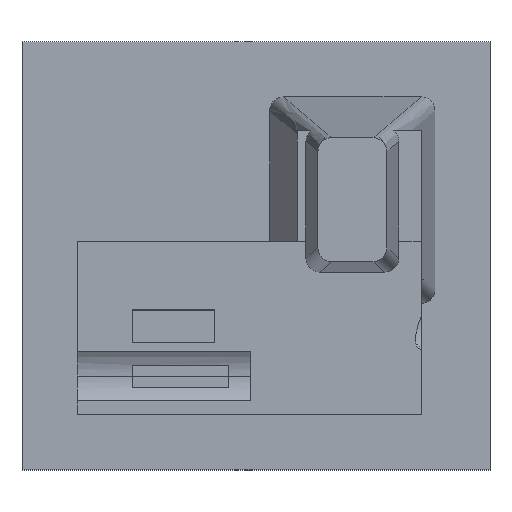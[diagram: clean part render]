
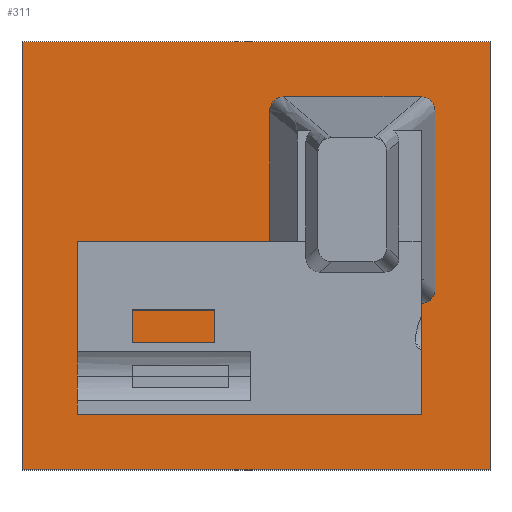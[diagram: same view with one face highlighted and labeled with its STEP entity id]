
A CAD part, top view. The second image highlights one B-rep face of the part: STEP entity #311.
In plain terms, the highlighted planar face has unit normal (0, 0, 1).
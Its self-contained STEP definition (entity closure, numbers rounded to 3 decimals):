
#22 = VERTEX_POINT('',#23);
#23 = CARTESIAN_POINT('',(0.,15.55,2.));
#32 = PLANE('',#33);
#33 = AXIS2_PLACEMENT_3D('',#34,#35,#36);
#34 = CARTESIAN_POINT('',(0.,15.55,2.));
#35 = DIRECTION('',(1.,0.,0.));
#36 = DIRECTION('',(0.,0.,-1.));
#44 = PLANE('',#45);
#45 = AXIS2_PLACEMENT_3D('',#46,#47,#48);
#46 = CARTESIAN_POINT('',(0.,15.55,2.));
#47 = DIRECTION('',(0.,-1.,0.));
#48 = DIRECTION('',(0.,0.,-1.));
#56 = EDGE_CURVE('',#22,#57,#59,.T.);
#57 = VERTEX_POINT('',#58);
#58 = CARTESIAN_POINT('',(0.,0.,2.));
#59 = SURFACE_CURVE('',#60,(#64,#71),.PCURVE_S1.);
#60 = LINE('',#61,#62);
#61 = CARTESIAN_POINT('',(0.,15.55,2.));
#62 = VECTOR('',#63,1.);
#63 = DIRECTION('',(0.,-1.,0.));
#64 = PCURVE('',#32,#65);
#65 = DEFINITIONAL_REPRESENTATION('',(#66),#70);
#66 = LINE('',#67,#68);
#67 = CARTESIAN_POINT('',(0.,0.));
#68 = VECTOR('',#69,1.);
#69 = DIRECTION('',(0.,-1.));
#70 = ( GEOMETRIC_REPRESENTATION_CONTEXT(2) 
PARAMETRIC_REPRESENTATION_CONTEXT() REPRESENTATION_CONTEXT('2D SPACE',''
  ) );
#71 = PCURVE('',#72,#77);
#72 = PLANE('',#73);
#73 = AXIS2_PLACEMENT_3D('',#74,#75,#76);
#74 = CARTESIAN_POINT('',(0.,15.55,2.));
#75 = DIRECTION('',(0.,0.,-1.));
#76 = DIRECTION('',(1.,0.,0.));
#77 = DEFINITIONAL_REPRESENTATION('',(#78),#82);
#78 = LINE('',#79,#80);
#79 = CARTESIAN_POINT('',(0.,0.));
#80 = VECTOR('',#81,1.);
#81 = DIRECTION('',(0.,1.));
#82 = ( GEOMETRIC_REPRESENTATION_CONTEXT(2) 
PARAMETRIC_REPRESENTATION_CONTEXT() REPRESENTATION_CONTEXT('2D SPACE',''
  ) );
#100 = PLANE('',#101);
#101 = AXIS2_PLACEMENT_3D('',#102,#103,#104);
#102 = CARTESIAN_POINT('',(0.,0.,2.));
#103 = DIRECTION('',(0.,-1.,0.));
#104 = DIRECTION('',(0.,0.,-1.));
#141 = EDGE_CURVE('',#22,#142,#144,.T.);
#142 = VERTEX_POINT('',#143);
#143 = CARTESIAN_POINT('',(17.,15.55,2.));
#144 = SURFACE_CURVE('',#145,(#149,#156),.PCURVE_S1.);
#145 = LINE('',#146,#147);
#146 = CARTESIAN_POINT('',(0.,15.55,2.));
#147 = VECTOR('',#148,1.);
#148 = DIRECTION('',(1.,0.,0.));
#149 = PCURVE('',#44,#150);
#150 = DEFINITIONAL_REPRESENTATION('',(#151),#155);
#151 = LINE('',#152,#153);
#152 = CARTESIAN_POINT('',(0.,0.));
#153 = VECTOR('',#154,1.);
#154 = DIRECTION('',(0.,1.));
#155 = ( GEOMETRIC_REPRESENTATION_CONTEXT(2) 
PARAMETRIC_REPRESENTATION_CONTEXT() REPRESENTATION_CONTEXT('2D SPACE',''
  ) );
#156 = PCURVE('',#72,#157);
#157 = DEFINITIONAL_REPRESENTATION('',(#158),#162);
#158 = LINE('',#159,#160);
#159 = CARTESIAN_POINT('',(0.,0.));
#160 = VECTOR('',#161,1.);
#161 = DIRECTION('',(1.,0.));
#162 = ( GEOMETRIC_REPRESENTATION_CONTEXT(2) 
PARAMETRIC_REPRESENTATION_CONTEXT() REPRESENTATION_CONTEXT('2D SPACE',''
  ) );
#202 = PLANE('',#203);
#203 = AXIS2_PLACEMENT_3D('',#204,#205,#206);
#204 = CARTESIAN_POINT('',(17.,15.55,2.));
#205 = DIRECTION('',(1.,0.,0.));
#206 = DIRECTION('',(0.,0.,-1.));
#266 = EDGE_CURVE('',#57,#267,#269,.T.);
#267 = VERTEX_POINT('',#268);
#268 = CARTESIAN_POINT('',(17.,0.,2.));
#269 = SURFACE_CURVE('',#270,(#274,#281),.PCURVE_S1.);
#270 = LINE('',#271,#272);
#271 = CARTESIAN_POINT('',(0.,0.,2.));
#272 = VECTOR('',#273,1.);
#273 = DIRECTION('',(1.,0.,0.));
#274 = PCURVE('',#100,#275);
#275 = DEFINITIONAL_REPRESENTATION('',(#276),#280);
#276 = LINE('',#277,#278);
#277 = CARTESIAN_POINT('',(0.,0.));
#278 = VECTOR('',#279,1.);
#279 = DIRECTION('',(0.,1.));
#280 = ( GEOMETRIC_REPRESENTATION_CONTEXT(2) 
PARAMETRIC_REPRESENTATION_CONTEXT() REPRESENTATION_CONTEXT('2D SPACE',''
  ) );
#281 = PCURVE('',#72,#282);
#282 = DEFINITIONAL_REPRESENTATION('',(#283),#287);
#283 = LINE('',#284,#285);
#284 = CARTESIAN_POINT('',(0.,15.55));
#285 = VECTOR('',#286,1.);
#286 = DIRECTION('',(1.,0.));
#287 = ( GEOMETRIC_REPRESENTATION_CONTEXT(2) 
PARAMETRIC_REPRESENTATION_CONTEXT() REPRESENTATION_CONTEXT('2D SPACE',''
  ) );
#311 = ADVANCED_FACE('',(#312,#338),#72,.F.);
#312 = FACE_BOUND('',#313,.F.);
#313 = EDGE_LOOP('',(#314,#315,#316,#337));
#314 = ORIENTED_EDGE('',*,*,#56,.F.);
#315 = ORIENTED_EDGE('',*,*,#141,.T.);
#316 = ORIENTED_EDGE('',*,*,#317,.T.);
#317 = EDGE_CURVE('',#142,#267,#318,.T.);
#318 = SURFACE_CURVE('',#319,(#323,#330),.PCURVE_S1.);
#319 = LINE('',#320,#321);
#320 = CARTESIAN_POINT('',(17.,15.55,2.));
#321 = VECTOR('',#322,1.);
#322 = DIRECTION('',(0.,-1.,0.));
#323 = PCURVE('',#72,#324);
#324 = DEFINITIONAL_REPRESENTATION('',(#325),#329);
#325 = LINE('',#326,#327);
#326 = CARTESIAN_POINT('',(17.,0.));
#327 = VECTOR('',#328,1.);
#328 = DIRECTION('',(0.,1.));
#329 = ( GEOMETRIC_REPRESENTATION_CONTEXT(2) 
PARAMETRIC_REPRESENTATION_CONTEXT() REPRESENTATION_CONTEXT('2D SPACE',''
  ) );
#330 = PCURVE('',#202,#331);
#331 = DEFINITIONAL_REPRESENTATION('',(#332),#336);
#332 = LINE('',#333,#334);
#333 = CARTESIAN_POINT('',(0.,0.));
#334 = VECTOR('',#335,1.);
#335 = DIRECTION('',(0.,-1.));
#336 = ( GEOMETRIC_REPRESENTATION_CONTEXT(2) 
PARAMETRIC_REPRESENTATION_CONTEXT() REPRESENTATION_CONTEXT('2D SPACE',''
  ) );
#337 = ORIENTED_EDGE('',*,*,#266,.F.);
#338 = FACE_BOUND('',#339,.F.);
#339 = EDGE_LOOP('',(#340,#370,#398,#426));
#340 = ORIENTED_EDGE('',*,*,#341,.F.);
#341 = EDGE_CURVE('',#342,#344,#346,.T.);
#342 = VERTEX_POINT('',#343);
#343 = CARTESIAN_POINT('',(10.,12.3,2.));
#344 = VERTEX_POINT('',#345);
#345 = CARTESIAN_POINT('',(14.5,12.3,2.));
#346 = SURFACE_CURVE('',#347,(#351,#358),.PCURVE_S1.);
#347 = LINE('',#348,#349);
#348 = CARTESIAN_POINT('',(10.,12.3,2.));
#349 = VECTOR('',#350,1.);
#350 = DIRECTION('',(1.,0.,0.));
#351 = PCURVE('',#72,#352);
#352 = DEFINITIONAL_REPRESENTATION('',(#353),#357);
#353 = LINE('',#354,#355);
#354 = CARTESIAN_POINT('',(10.,3.25));
#355 = VECTOR('',#356,1.);
#356 = DIRECTION('',(1.,0.));
#357 = ( GEOMETRIC_REPRESENTATION_CONTEXT(2) 
PARAMETRIC_REPRESENTATION_CONTEXT() REPRESENTATION_CONTEXT('2D SPACE',''
  ) );
#358 = PCURVE('',#359,#364);
#359 = PLANE('',#360);
#360 = AXIS2_PLACEMENT_3D('',#361,#362,#363);
#361 = CARTESIAN_POINT('',(10.,12.3,10.15));
#362 = DIRECTION('',(0.,-1.,0.));
#363 = DIRECTION('',(0.,0.,-1.));
#364 = DEFINITIONAL_REPRESENTATION('',(#365),#369);
#365 = LINE('',#366,#367);
#366 = CARTESIAN_POINT('',(8.15,0.));
#367 = VECTOR('',#368,1.);
#368 = DIRECTION('',(0.,1.));
#369 = ( GEOMETRIC_REPRESENTATION_CONTEXT(2) 
PARAMETRIC_REPRESENTATION_CONTEXT() REPRESENTATION_CONTEXT('2D SPACE',''
  ) );
#370 = ORIENTED_EDGE('',*,*,#371,.T.);
#371 = EDGE_CURVE('',#342,#372,#374,.T.);
#372 = VERTEX_POINT('',#373);
#373 = CARTESIAN_POINT('',(10.,8.3,2.));
#374 = SURFACE_CURVE('',#375,(#379,#386),.PCURVE_S1.);
#375 = LINE('',#376,#377);
#376 = CARTESIAN_POINT('',(10.,12.3,2.));
#377 = VECTOR('',#378,1.);
#378 = DIRECTION('',(0.,-1.,0.));
#379 = PCURVE('',#72,#380);
#380 = DEFINITIONAL_REPRESENTATION('',(#381),#385);
#381 = LINE('',#382,#383);
#382 = CARTESIAN_POINT('',(10.,3.25));
#383 = VECTOR('',#384,1.);
#384 = DIRECTION('',(0.,1.));
#385 = ( GEOMETRIC_REPRESENTATION_CONTEXT(2) 
PARAMETRIC_REPRESENTATION_CONTEXT() REPRESENTATION_CONTEXT('2D SPACE',''
  ) );
#386 = PCURVE('',#387,#392);
#387 = PLANE('',#388);
#388 = AXIS2_PLACEMENT_3D('',#389,#390,#391);
#389 = CARTESIAN_POINT('',(10.,12.3,10.15));
#390 = DIRECTION('',(1.,0.,0.));
#391 = DIRECTION('',(0.,0.,-1.));
#392 = DEFINITIONAL_REPRESENTATION('',(#393),#397);
#393 = LINE('',#394,#395);
#394 = CARTESIAN_POINT('',(8.15,0.));
#395 = VECTOR('',#396,1.);
#396 = DIRECTION('',(0.,-1.));
#397 = ( GEOMETRIC_REPRESENTATION_CONTEXT(2) 
PARAMETRIC_REPRESENTATION_CONTEXT() REPRESENTATION_CONTEXT('2D SPACE',''
  ) );
#398 = ORIENTED_EDGE('',*,*,#399,.T.);
#399 = EDGE_CURVE('',#372,#400,#402,.T.);
#400 = VERTEX_POINT('',#401);
#401 = CARTESIAN_POINT('',(14.5,8.3,2.));
#402 = SURFACE_CURVE('',#403,(#407,#414),.PCURVE_S1.);
#403 = LINE('',#404,#405);
#404 = CARTESIAN_POINT('',(10.,8.3,2.));
#405 = VECTOR('',#406,1.);
#406 = DIRECTION('',(1.,0.,0.));
#407 = PCURVE('',#72,#408);
#408 = DEFINITIONAL_REPRESENTATION('',(#409),#413);
#409 = LINE('',#410,#411);
#410 = CARTESIAN_POINT('',(10.,7.25));
#411 = VECTOR('',#412,1.);
#412 = DIRECTION('',(1.,0.));
#413 = ( GEOMETRIC_REPRESENTATION_CONTEXT(2) 
PARAMETRIC_REPRESENTATION_CONTEXT() REPRESENTATION_CONTEXT('2D SPACE',''
  ) );
#414 = PCURVE('',#415,#420);
#415 = PLANE('',#416);
#416 = AXIS2_PLACEMENT_3D('',#417,#418,#419);
#417 = CARTESIAN_POINT('',(10.,8.3,10.15));
#418 = DIRECTION('',(0.,-1.,0.));
#419 = DIRECTION('',(0.,0.,-1.));
#420 = DEFINITIONAL_REPRESENTATION('',(#421),#425);
#421 = LINE('',#422,#423);
#422 = CARTESIAN_POINT('',(8.15,0.));
#423 = VECTOR('',#424,1.);
#424 = DIRECTION('',(0.,1.));
#425 = ( GEOMETRIC_REPRESENTATION_CONTEXT(2) 
PARAMETRIC_REPRESENTATION_CONTEXT() REPRESENTATION_CONTEXT('2D SPACE',''
  ) );
#426 = ORIENTED_EDGE('',*,*,#427,.F.);
#427 = EDGE_CURVE('',#344,#400,#428,.T.);
#428 = SURFACE_CURVE('',#429,(#433,#440),.PCURVE_S1.);
#429 = LINE('',#430,#431);
#430 = CARTESIAN_POINT('',(14.5,12.3,2.));
#431 = VECTOR('',#432,1.);
#432 = DIRECTION('',(0.,-1.,0.));
#433 = PCURVE('',#72,#434);
#434 = DEFINITIONAL_REPRESENTATION('',(#435),#439);
#435 = LINE('',#436,#437);
#436 = CARTESIAN_POINT('',(14.5,3.25));
#437 = VECTOR('',#438,1.);
#438 = DIRECTION('',(0.,1.));
#439 = ( GEOMETRIC_REPRESENTATION_CONTEXT(2) 
PARAMETRIC_REPRESENTATION_CONTEXT() REPRESENTATION_CONTEXT('2D SPACE',''
  ) );
#440 = PCURVE('',#441,#446);
#441 = PLANE('',#442);
#442 = AXIS2_PLACEMENT_3D('',#443,#444,#445);
#443 = CARTESIAN_POINT('',(14.5,12.3,10.15));
#444 = DIRECTION('',(1.,0.,0.));
#445 = DIRECTION('',(0.,0.,-1.));
#446 = DEFINITIONAL_REPRESENTATION('',(#447),#451);
#447 = LINE('',#448,#449);
#448 = CARTESIAN_POINT('',(8.15,0.));
#449 = VECTOR('',#450,1.);
#450 = DIRECTION('',(0.,-1.));
#451 = ( GEOMETRIC_REPRESENTATION_CONTEXT(2) 
PARAMETRIC_REPRESENTATION_CONTEXT() REPRESENTATION_CONTEXT('2D SPACE',''
  ) );
